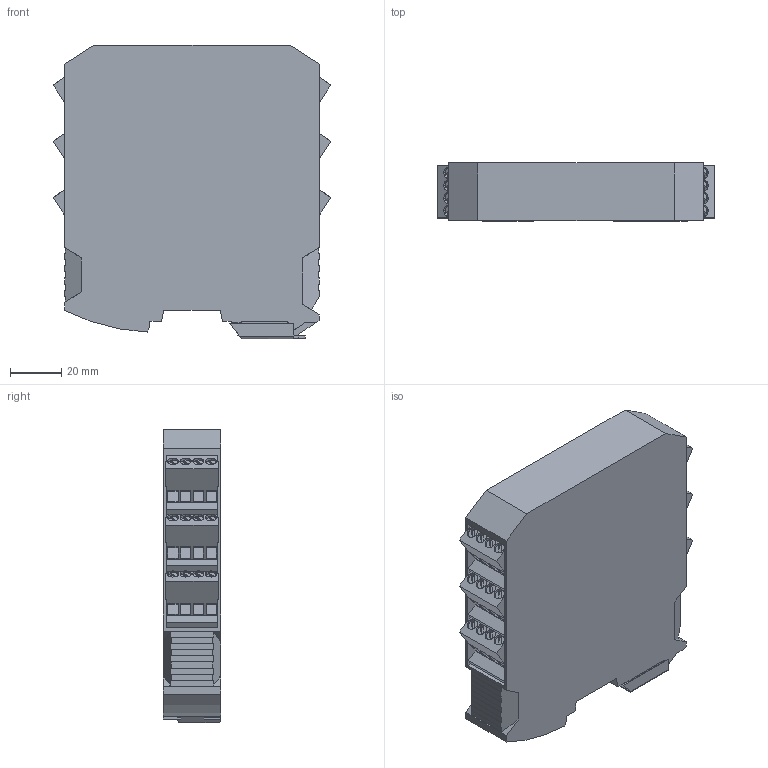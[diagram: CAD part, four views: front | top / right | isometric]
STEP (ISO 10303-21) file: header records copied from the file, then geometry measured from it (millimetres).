
FILE_DESCRIPTION(/* description */ ('Katalogmodell Elobau'),/* implementation_level */ '2;1');
FILE_NAME(/* name */ 'Katalogdaten.stp',/* time_stamp */ '2015-04-28T09:51:44+02:00',/* author */ ('Elobau GmbH & Co. KG'),/* organization */ ('Elobau GmbH & Co. KG'),/* preprocessor_version */ 'ST-DEVELOPER v15',/* originating_system */ 'SIEMENS PLM Software NX 8.5',/* authorisation */ '');
FILE_SCHEMA (('AUTOMOTIVE_DESIGN { 1 0 10303 214 3 1 1 1 }'));
Length unit declared in the file: millimetre
Products named in the file (1): 485EPA..._A
Bounding box: 108.49 x 22.54 x 114.51 mm (x, y, z)
Volume: 235926.1 mm3; surface area: 39283.7 mm2
Topology: 1 solids, 1 shells, 567 faces, 1531 edges, 1025 vertices
Faces by surface type: plane 464, cylinder 103
Entity records: 17852 total; most frequent: CARTESIAN_POINT 3184, ORIENTED_EDGE 3062, DIRECTION 3021, EDGE_CURVE 1531, LINE 1137, VECTOR 1137, VERTEX_POINT 1025, AXIS2_PLACEMENT_3D 942
